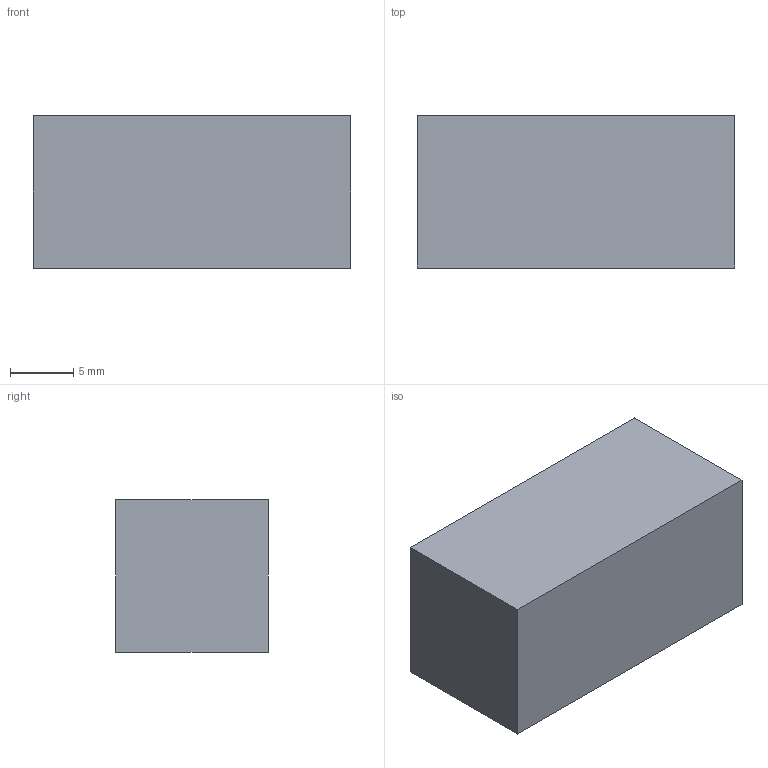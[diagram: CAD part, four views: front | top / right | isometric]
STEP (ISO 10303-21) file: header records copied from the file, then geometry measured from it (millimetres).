
FILE_DESCRIPTION(('Open CASCADE Model'),'2;1');
FILE_NAME('Open CASCADE Shape Model','2026-10-06T03:35:42',('Author'),( 'Open CASCADE'),'Open CASCADE STEP processor 7.8','Open CASCADE 7.8' ,'Unknown');
FILE_SCHEMA(('AUTOMOTIVE_DESIGN { 1 0 10303 214 1 1 1 1 }'));
Length unit declared in the file: millimetre
Products named in the file (1): Open CASCADE STEP translator 7.8 30
Bounding box: 25 x 12 x 12 mm (x, y, z)
Volume: 3600 mm3; surface area: 1488 mm2
Topology: 1 solids, 1 shells, 6 faces, 12 edges, 8 vertices
Faces by surface type: plane 6
Entity records: 322 total; most frequent: CARTESIAN_POINT 51, DIRECTION 50, LINE 36, VECTOR 36, ORIENTED_EDGE 24, PCURVE 24, DEFINITIONAL_REPRESENTATION 24, EDGE_CURVE 12
